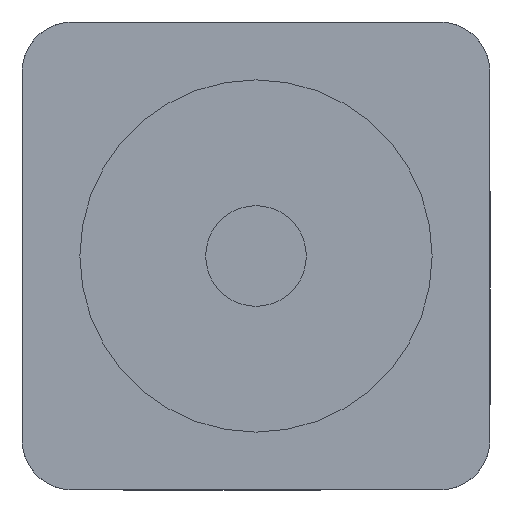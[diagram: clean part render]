
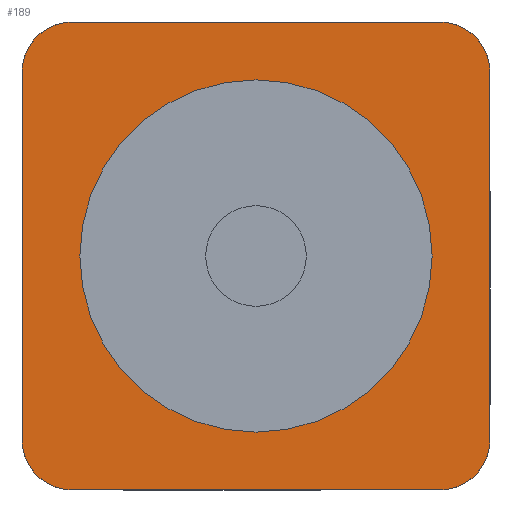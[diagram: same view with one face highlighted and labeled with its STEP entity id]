
A CAD part, front view. The second image highlights one B-rep face of the part: STEP entity #189.
In plain terms, the highlighted planar face has unit normal (0, -1, 0).
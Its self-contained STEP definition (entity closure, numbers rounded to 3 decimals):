
#2 = ORIENTED_EDGE ( 'NONE', *, *, #458, .F. ) ;
#15 = EDGE_LOOP ( 'NONE', ( #2076, #1045 ) ) ;
#23 = ORIENTED_EDGE ( 'NONE', *, *, #1677, .F. ) ;
#51 = CARTESIAN_POINT ( 'NONE',  ( -36.5, 0., -46.5 ) ) ;
#100 = CIRCLE ( 'NONE', #275, 10. ) ;
#102 = DIRECTION ( 'NONE',  ( 0., -1., 0. ) ) ;
#167 = CARTESIAN_POINT ( 'NONE',  ( -46.5, 0., 36.5 ) ) ;
#180 = DIRECTION ( 'NONE',  ( 0., 0., 1. ) ) ;
#188 = CARTESIAN_POINT ( 'NONE',  ( 36.5, 0., -36.5 ) ) ;
#189 = ADVANCED_FACE ( 'NONE', ( #1905, #749 ), #2542, .F. ) ;
#228 = ORIENTED_EDGE ( 'NONE', *, *, #232, .F. ) ;
#232 = EDGE_CURVE ( 'NONE', #605, #297, #2174, .T. ) ;
#275 = AXIS2_PLACEMENT_3D ( 'NONE', #878, #1661, #1073 ) ;
#297 = VERTEX_POINT ( 'NONE', #763 ) ;
#399 = ORIENTED_EDGE ( 'NONE', *, *, #730, .F. ) ;
#400 = DIRECTION ( 'NONE',  ( 0., 0., -1. ) ) ;
#423 = VERTEX_POINT ( 'NONE', #1680 ) ;
#442 = ORIENTED_EDGE ( 'NONE', *, *, #1938, .F. ) ;
#458 = EDGE_CURVE ( 'NONE', #2471, #605, #100, .T. ) ;
#461 = DIRECTION ( 'NONE',  ( 1., 0., 0. ) ) ;
#474 = CARTESIAN_POINT ( 'NONE',  ( 46.5, 0., -36.5 ) ) ;
#510 = ORIENTED_EDGE ( 'NONE', *, *, #736, .F. ) ;
#605 = VERTEX_POINT ( 'NONE', #926 ) ;
#623 = CIRCLE ( 'NONE', #1586, 35. ) ;
#624 = EDGE_CURVE ( 'NONE', #297, #2472, #1673, .T. ) ;
#675 = DIRECTION ( 'NONE',  ( -1., 0., 0. ) ) ;
#683 = CARTESIAN_POINT ( 'NONE',  ( 0., 0., 0. ) ) ;
#730 = EDGE_CURVE ( 'NONE', #2142, #927, #1490, .T. ) ;
#736 = EDGE_CURVE ( 'NONE', #1686, #2142, #2003, .T. ) ;
#749 = FACE_OUTER_BOUND ( 'NONE', #2081, .T. ) ;
#752 = CARTESIAN_POINT ( 'NONE',  ( 36.5, 0., -46.5 ) ) ;
#763 = CARTESIAN_POINT ( 'NONE',  ( -46.5, 0., 36.5 ) ) ;
#855 = CIRCLE ( 'NONE', #2323, 35. ) ;
#878 = CARTESIAN_POINT ( 'NONE',  ( -36.5, 0., -36.5 ) ) ;
#891 = DIRECTION ( 'NONE',  ( 0., 0., -1. ) ) ;
#926 = CARTESIAN_POINT ( 'NONE',  ( -46.5, 0., -36.5 ) ) ;
#927 = VERTEX_POINT ( 'NONE', #474 ) ;
#947 = CIRCLE ( 'NONE', #2143, 10. ) ;
#979 = VECTOR ( 'NONE', #2160, 1000. ) ;
#1045 = ORIENTED_EDGE ( 'NONE', *, *, #1161, .F. ) ;
#1073 = DIRECTION ( 'NONE',  ( 0., 0., -1. ) ) ;
#1072 = CARTESIAN_POINT ( 'NONE',  ( -36.5, 0., 46.5 ) ) ;
#1161 = EDGE_CURVE ( 'NONE', #2315, #423, #623, .T. ) ;
#1277 = CARTESIAN_POINT ( 'NONE',  ( -36.5, 0., -46.5 ) ) ;
#1369 = VECTOR ( 'NONE', #461, 1000. ) ;
#1396 = CARTESIAN_POINT ( 'NONE',  ( -36.5, 0., 36.5 ) ) ;
#1401 = VERTEX_POINT ( 'NONE', #752 ) ;
#1402 = DIRECTION ( 'NONE',  ( 0., 1., 0. ) ) ;
#1414 = AXIS2_PLACEMENT_3D ( 'NONE', #1396, #1402, #1415 ) ;
#1415 = DIRECTION ( 'NONE',  ( 0., 0., -1. ) ) ;
#1490 = LINE ( 'NONE', #1968, #979 ) ;
#1494 = ORIENTED_EDGE ( 'NONE', *, *, #2374, .F. ) ;
#1552 = DIRECTION ( 'NONE',  ( 0., 0., 1. ) ) ;
#1570 = DIRECTION ( 'NONE',  ( 0., 1., 0. ) ) ;
#1571 = DIRECTION ( 'NONE',  ( 0., 1., 0. ) ) ;
#1586 = AXIS2_PLACEMENT_3D ( 'NONE', #2423, #102, #1873 ) ;
#1640 = CARTESIAN_POINT ( 'NONE',  ( 46.5, 0., 36.5 ) ) ;
#1646 = CARTESIAN_POINT ( 'NONE',  ( 36.5, 0., 46.5 ) ) ;
#1659 = VECTOR ( 'NONE', #1552, 1000. ) ;
#1661 = DIRECTION ( 'NONE',  ( 0., 1., 0. ) ) ;
#1673 = CIRCLE ( 'NONE', #1414, 10. ) ;
#1677 = EDGE_CURVE ( 'NONE', #2472, #1686, #1946, .T. ) ;
#1680 = CARTESIAN_POINT ( 'NONE',  ( 0., 0., -35. ) ) ;
#1686 = VERTEX_POINT ( 'NONE', #1646 ) ;
#1728 = EDGE_CURVE ( 'NONE', #423, #2315, #855, .T. ) ;
#1765 = AXIS2_PLACEMENT_3D ( 'NONE', #1961, #1570, #180 ) ;
#1873 = DIRECTION ( 'NONE',  ( 0., 0., -1. ) ) ;
#1879 = VECTOR ( 'NONE', #675, 1000. ) ;
#1905 = FACE_BOUND ( 'NONE', #15, .T. ) ;
#1938 = EDGE_CURVE ( 'NONE', #927, #1401, #947, .T. ) ;
#1943 = AXIS2_PLACEMENT_3D ( 'NONE', #2220, #2271, #2355 ) ;
#1946 = LINE ( 'NONE', #1072, #1369 ) ;
#1961 = CARTESIAN_POINT ( 'NONE',  ( 36.5, 0., 36.5 ) ) ;
#1968 = CARTESIAN_POINT ( 'NONE',  ( 46.5, 0., 36.5 ) ) ;
#2003 = CIRCLE ( 'NONE', #1943, 10. ) ;
#2049 = DIRECTION ( 'NONE',  ( 0., -1., 0. ) ) ;
#2076 = ORIENTED_EDGE ( 'NONE', *, *, #1728, .F. ) ;
#2081 = EDGE_LOOP ( 'NONE', ( #510, #23, #2201, #228, #2, #1494, #442, #399 ) ) ;
#2142 = VERTEX_POINT ( 'NONE', #1640 ) ;
#2143 = AXIS2_PLACEMENT_3D ( 'NONE', #188, #1571, #400 ) ;
#2160 = DIRECTION ( 'NONE',  ( 0., 0., -1. ) ) ;
#2174 = LINE ( 'NONE', #167, #1659 ) ;
#2201 = ORIENTED_EDGE ( 'NONE', *, *, #624, .F. ) ;
#2220 = CARTESIAN_POINT ( 'NONE',  ( 36.5, 0., 36.5 ) ) ;
#2271 = DIRECTION ( 'NONE',  ( 0., 1., 0. ) ) ;
#2315 = VERTEX_POINT ( 'NONE', #2329 ) ;
#2323 = AXIS2_PLACEMENT_3D ( 'NONE', #683, #2049, #891 ) ;
#2329 = CARTESIAN_POINT ( 'NONE',  ( 0., 0., 35. ) ) ;
#2355 = DIRECTION ( 'NONE',  ( 0., 0., 1. ) ) ;
#2374 = EDGE_CURVE ( 'NONE', #1401, #2471, #2387, .T. ) ;
#2387 = LINE ( 'NONE', #51, #1879 ) ;
#2423 = CARTESIAN_POINT ( 'NONE',  ( 0., 0., 0. ) ) ;
#2440 = CARTESIAN_POINT ( 'NONE',  ( -36.5, 0., 46.5 ) ) ;
#2471 = VERTEX_POINT ( 'NONE', #1277 ) ;
#2472 = VERTEX_POINT ( 'NONE', #2440 ) ;
#2542 = PLANE ( 'NONE',  #1765 ) ;
